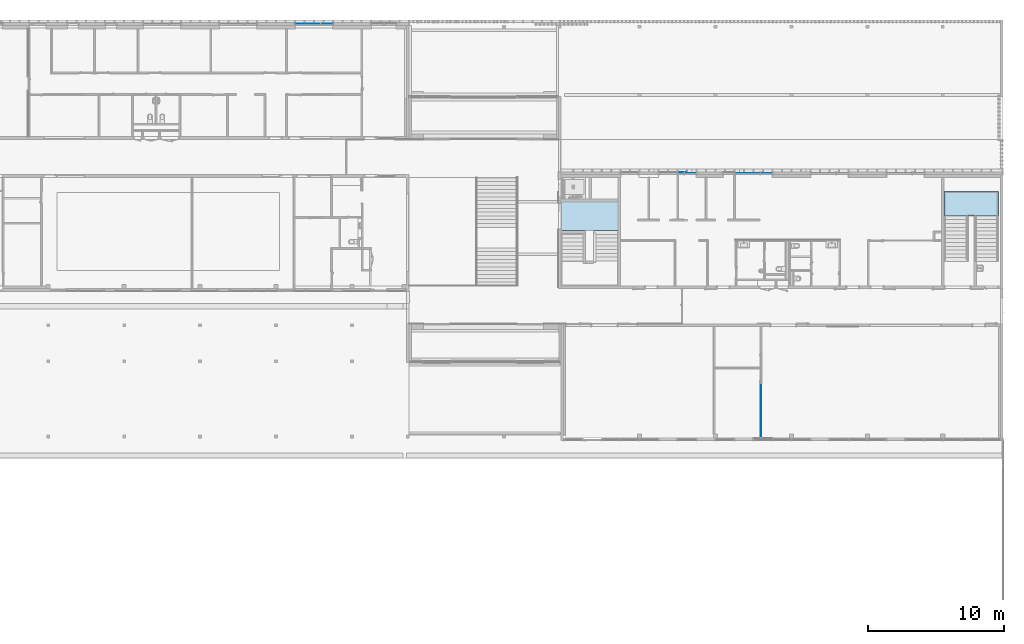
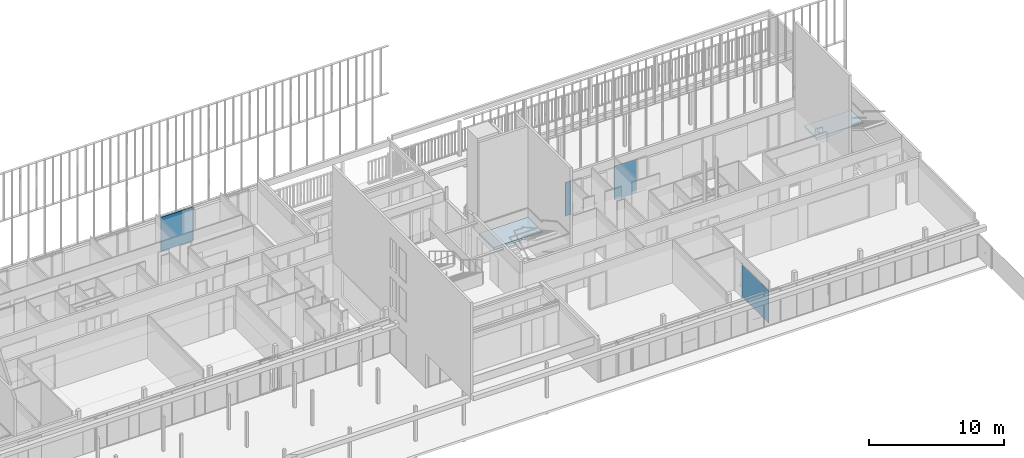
# One storey, part 182 of 240: 4 plates, 2 slabs, 6 elements without a shape of their own.
"""IFC2X3 building model written with IfcOpenShell, lengths in centimetres."""

from ifc_helpers import new_model, entity, si_unit, converted_unit, derived_unit, direction, frame, origin, place, context, subcontext, project, spatial, faceted_brep, source, transform, mapped, material, layer, layer_set, type_object, type_shapes, element, aggregate, save


model = new_model("IFC2X3")

# Units and contexts
model_context = context("Model", 3, precision=0.001, world=origin(), true_north=direction((6.12303176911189e-17, 1.0)))
body_context = subcontext(model_context, "Body", "Model", "MODEL_VIEW")
ifc_project = project(units=[si_unit("LENGTHUNIT", "METRE", prefix="CENTI"), si_unit("AREAUNIT", "SQUARE_METRE"), si_unit("VOLUMEUNIT", "CUBIC_METRE"), converted_unit("PLANEANGLEUNIT", "DEGREE", entity("IfcRatioMeasure", 0.0174532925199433), si_unit("PLANEANGLEUNIT", "RADIAN"), dimensions=[0, 0, 0, 0, 0, 0, 0]), si_unit("MASSUNIT", "GRAM", prefix="KILO"), derived_unit("MASSDENSITYUNIT", [(si_unit("MASSUNIT", "GRAM", prefix="KILO"), 1), (si_unit("LENGTHUNIT", "METRE"), -3)]), si_unit("TIMEUNIT", "SECOND"), si_unit("FREQUENCYUNIT", "HERTZ"), si_unit("THERMODYNAMICTEMPERATUREUNIT", "DEGREE_CELSIUS"), derived_unit("THERMALTRANSMITTANCEUNIT", [(si_unit("MASSUNIT", "GRAM", prefix="KILO"), 1), (si_unit("THERMODYNAMICTEMPERATUREUNIT", "KELVIN"), -1), (si_unit("TIMEUNIT", "SECOND"), -3)]), derived_unit("VOLUMETRICFLOWRATEUNIT", [(si_unit("LENGTHUNIT", "METRE"), 3), (si_unit("TIMEUNIT", "SECOND"), -1)]), si_unit("ELECTRICCURRENTUNIT", "AMPERE"), si_unit("ELECTRICVOLTAGEUNIT", "VOLT"), si_unit("POWERUNIT", "WATT"), si_unit("FORCEUNIT", "NEWTON", prefix="KILO"), si_unit("ILLUMINANCEUNIT", "LUX"), si_unit("LUMINOUSFLUXUNIT", "LUMEN"), si_unit("LUMINOUSINTENSITYUNIT", "CANDELA"), derived_unit("USERDEFINED", [(si_unit("MASSUNIT", "GRAM", prefix="KILO"), -1), (si_unit("LENGTHUNIT", "METRE"), -2), (si_unit("TIMEUNIT", "SECOND"), 3), (si_unit("LUMINOUSFLUXUNIT", "LUMEN"), 1)]), derived_unit("LINEARVELOCITYUNIT", [(si_unit("LENGTHUNIT", "METRE"), 1), (si_unit("TIMEUNIT", "SECOND"), -1)]), si_unit("PRESSUREUNIT", "PASCAL"), derived_unit("USERDEFINED", [(si_unit("LENGTHUNIT", "METRE"), -2), (si_unit("MASSUNIT", "GRAM", prefix="KILO"), 1), (si_unit("TIMEUNIT", "SECOND"), -2)])], contexts=[model_context])

# Site, building, storey
site_placement = place(None, frame((-2781.94577612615, 7442.24238424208, 0.0)))
site = spatial("IfcSite", under=ifc_project, at=site_placement, Name="Default", CompositionType="ELEMENT")
building_placement = place(site_placement, origin())
building = spatial("IfcBuilding", under=site, at=building_placement, CompositionType="ELEMENT")
storey_placement = place(building_placement, origin())
storey = spatial("IfcBuildingStorey", under=building, at=storey_placement, Name="N00 - COO", CompositionType="ELEMENT", Elevation=0.0)

# Curtain wall, plate
curtain_wall_type_1 = type_object("IfcCurtainWallType", Name="Mur-rideau:07 - mur rideau trame 280 cm", PredefinedType="NOTDEFINED")
curtain_wall_1_placement = place(building_placement, origin())
curtain_wall_1 = element("IfcCurtainWall", 1, at=curtain_wall_1_placement, inside=storey, type_object=curtain_wall_type_1, Name="Mur-rideau:07 - mur rideau trame 280 cm", ObjectType="Mur-rideau:07 - mur rideau trame 280 cm")
ifc_material_1 = material(Name="Verre")
ifc_layer = layer(ifc_material_1, 4.0)
ifc_layer_set = layer_set([ifc_layer], Name="Panneau système:Vitré")
plate_type_1 = type_object("IfcPlateType", Name="Vitré", PredefinedType="CURTAIN_PANEL", material=ifc_layer_set)
shared_shape_1 = source(origin(), body_context, "Body", "Brep", [
    faceted_brep([(67.4406265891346, -2.0, 0.0), (-20.1781234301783, -2.0, 0.0), (-20.1781234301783, -2.0, 307.7375), (67.4406265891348, -2.0, 307.7375), (67.4406265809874, -2.0, 306.0), (-67.4406265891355, -2.0, 306.0), (-67.4406265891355, -2.0, 1.73749999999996), (67.4406265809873, -2.0, 1.73749999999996), (67.4406265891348, 2.0, 0.0), (67.4406265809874, 2.0, 1.73749999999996), (-67.4406265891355, 2.0, 1.73749999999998), (-67.4406265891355, 2.0, 306.0), (67.4406265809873, 2.0, 306.0), (67.4406265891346, 2.0, 307.7375), (-20.1781234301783, 2.0, 307.7375), (-20.1781234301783, 2.0, 0.0)], [[[0, 1, 2, 3, 4, 5, 6, 7]], [[8, 9, 10, 11, 12, 13, 14, 15]], [[1, 0, 8, 15]], [[2, 1, 15, 14]], [[3, 2, 14, 13]], [[4, 3, 13, 12]], [[5, 4, 12, 11]], [[6, 5, 11, 10]], [[7, 6, 10, 9]], [[0, 7, 9, 8]]]),
])
type_shapes(plate_type_1, [shared_shape_1])
plate_1_placement = place(curtain_wall_1_placement, frame((-2719.99050940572, -1073.7999999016, 2.38125000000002)))
plate_1 = element("IfcPlate", 2, at=plate_1_placement, type_object=plate_type_1, material=ifc_material_1, Name="Panneau système:Vitré", ObjectType="Panneau système:Vitré", context=body_context, shape_type="MappedRepresentation", body=[
    mapped(shared_shape_1, transform((0.0, 0.0, 0.0), scale=1.0)),
])
aggregate(curtain_wall_1, [plate_1])

curtain_wall_2_placement = place(building_placement, origin())
curtain_wall_2 = element("IfcCurtainWall", 3, at=curtain_wall_2_placement, inside=storey, type_object=curtain_wall_type_1, Name="Mur-rideau:07 - mur rideau trame 280 cm", ObjectType="Mur-rideau:07 - mur rideau trame 280 cm")
plate_type_2 = type_object("IfcPlateType", Name="Vitré", PredefinedType="CURTAIN_PANEL", material=ifc_layer_set)
shared_shape_2 = source(origin(), body_context, "Body", "Brep", [
    faceted_brep([(137.940625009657, -2.0, 0.0), (50.3218749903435, -2.0, 0.0), (50.3218749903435, -2.0, 307.7375), (137.940625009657, -2.0, 307.7375), (137.94062500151, -2.0, 306.0), (-137.940625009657, -2.0, 306.0), (-137.940625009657, -2.0, 1.73749999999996), (137.940625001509, -2.0, 1.73749999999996), (137.940625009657, 2.0, 0.0), (137.940625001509, 2.0, 1.73749999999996), (-137.940625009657, 2.0, 1.73749999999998), (-137.940625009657, 2.0, 306.0), (137.940625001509, 2.0, 306.0), (137.940625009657, 2.0, 307.7375), (50.3218749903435, 2.0, 307.7375), (50.3218749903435, 2.0, 0.0)], [[[0, 1, 2, 3, 4, 5, 6, 7]], [[8, 9, 10, 11, 12, 13, 14, 15]], [[1, 0, 8, 15]], [[2, 1, 15, 14]], [[3, 2, 14, 13]], [[4, 3, 13, 12]], [[5, 4, 12, 11]], [[6, 5, 11, 10]], [[7, 6, 10, 9]], [[0, 7, 9, 8]]]),
])
type_shapes(plate_type_2, [shared_shape_2])
plate_2_placement = place(curtain_wall_2_placement, frame((-2230.49050783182, -1073.7999999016, 2.38125000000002)))
plate_2 = element("IfcPlate", 4, at=plate_2_placement, type_object=plate_type_2, material=ifc_material_1, Name="Panneau système:Vitré", ObjectType="Panneau système:Vitré", context=body_context, shape_type="MappedRepresentation", body=[
    mapped(shared_shape_2, transform((0.0, 0.0, 0.0), scale=1.0)),
])
aggregate(curtain_wall_2, [plate_2])

curtain_wall_3_placement = place(building_placement, origin())
curtain_wall_3 = element("IfcCurtainWall", 5, at=curtain_wall_3_placement, inside=storey, type_object=curtain_wall_type_1, Name="Mur-rideau:07 - mur rideau trame 280 cm", ObjectType="Mur-rideau:07 - mur rideau trame 280 cm")
plate_type_3 = type_object("IfcPlateType", Name="Vitré", PredefinedType="CURTAIN_PANEL", material=ifc_layer_set)
shared_shape_3 = source(origin(), body_context, "Body", "Brep", [
    faceted_brep([(-137.07187501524, -2.0, 1.73749999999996), (138.809375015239, -2.0, 1.73749999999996), (138.809375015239, -2.0, 310.61875), (-137.07187501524, -2.0, 310.61875), (-137.07187501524, 2.0, 1.73749999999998), (-137.07187501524, 2.0, 310.61875), (138.809375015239, 2.0, 310.61875), (138.809375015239, 2.0, 1.73749999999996), (-47.0718750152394, 2.0, 0.0), (-47.0718750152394, 2.0, 307.7375), (-138.80937501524, 2.0, 307.7375), (-138.80937501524, 2.0, 0.0), (-138.80937501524, -2.0, 0.0), (-47.0718750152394, -2.0, 0.0), (-138.80937501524, -2.0, 307.7375), (-47.0718750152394, -2.0, 307.7375)], [[[0, 1, 2, 3]], [[4, 5, 6, 7], [8, 9, 10, 11]], [[1, 0, 4, 7]], [[2, 1, 7, 6]], [[3, 2, 6, 5]], [[0, 3, 5, 4]], [[12, 13, 8, 11]], [[14, 12, 11, 10]], [[15, 14, 10, 9]], [[13, 15, 9, 8]], [[13, 12, 14, 15]]]),
])
type_shapes(plate_type_3, [shared_shape_3])
plate_3_placement = place(curtain_wall_3_placement, frame((-5467.44050261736, 26.2000000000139, 2.38125000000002), z_axis=(0.0, 0.0, 1.0), x_axis=(-1.0, 0.0, 0.0)))
plate_3 = element("IfcPlate", 6, at=plate_3_placement, type_object=plate_type_3, material=ifc_material_1, Name="Panneau système:Vitré", ObjectType="Panneau système:Vitré", context=body_context, shape_type="MappedRepresentation", body=[
    mapped(shared_shape_3, transform((0.0, 0.0, 0.0), scale=1.0)),
])
aggregate(curtain_wall_3, [plate_3])

curtain_wall_type_2 = type_object("IfcCurtainWallType", PredefinedType="NOTDEFINED")
curtain_wall_4_placement = place(building_placement, origin())
curtain_wall_4 = element("IfcCurtainWall", 7, at=curtain_wall_4_placement, inside=storey, type_object=curtain_wall_type_2)
plate_type_4 = type_object("IfcPlateType", Name="Vitré", PredefinedType="CURTAIN_PANEL", material=ifc_layer_set)
shared_shape_4 = source(origin(), body_context, "Body", "Brep", [
    faceted_brep([(-193.32846613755, -2.0, 0.0), (201.828466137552, -2.0, 0.0), (201.828466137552, -2.0, 296.0), (-201.828466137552, -2.0, 296.0), (-201.828466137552, -2.0, 304.500000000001), (-193.32846613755, -2.0, 304.500000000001), (-193.32846613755, 2.0, 0.0), (-193.32846613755, 2.0, 304.500000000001), (-201.828466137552, 2.0, 304.500000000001), (-201.828466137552, 2.0, 296.0), (201.828466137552, 2.0, 296.0), (201.828466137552, 2.0, 0.0)], [[[0, 1, 2, 3, 4, 5]], [[6, 7, 8, 9, 10, 11]], [[1, 0, 6, 11]], [[2, 1, 11, 10]], [[3, 2, 10, 9]], [[4, 3, 9, 8]], [[5, 4, 8, 7]], [[0, 5, 7, 6]]]),
])
type_shapes(plate_type_4, [shared_shape_4])
plate_4_placement = place(curtain_wall_4_placement, frame((-2174.19987968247, -2823.48503345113, 5.0), z_axis=(0.0, 0.0, 1.0), x_axis=(0.0, -1.0, 0.0)))
plate_4 = element("IfcPlate", 8, at=plate_4_placement, type_object=plate_type_4, material=ifc_material_1, Name="Panneau système:Vitré", ObjectType="Panneau système:Vitré", context=body_context, shape_type="MappedRepresentation", body=[
    mapped(shared_shape_4, transform((0.0, 0.0, 0.0), scale=1.0)),
])
aggregate(curtain_wall_4, [plate_4])

# Stair, slab
stair_1_placement = place(building_placement, origin())
stair_1 = element("IfcStair", 9, at=stair_1_placement, inside=storey, Name="Escalier coulé sur place:Escalier", ObjectType="Escalier coulé sur place:Monobloc", ShapeType="NOTDEFINED")
ifc_material_2 = material(Name="Maçonnerie - Béton")
slab_1_placement = place(stair_1_placement, frame((-825.299882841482, -1394.07903364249, 0.0)))
slab_1 = element("IfcSlab", 10, at=slab_1_placement, material=ifc_material_2, Name="Escalier coulé sur place:Escalier:542505 Landing 1", ObjectType="Palier monobloc:Epaisseur 150 mm", PredefinedType="LANDING", context=body_context, shape_type="Brep", body=[
    faceted_brep([(0.0, 0.0, 219.44), (180.0, 0.0, 219.44), (220.0, 0.0, 219.44), (400.0, 0.0, 219.44), (400.0, 17.6803022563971, 219.44), (400.0, 180.0, 219.44), (0.0, 180.0, 219.44), (0.0, 10.3196977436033, 219.44), (0.0, 0.0, 193.218696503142), (0.0, 0.0, 202.56), (0.0, 180.0, 199.44), (0.0, 10.3196977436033, 199.44), (180.0, 0.0, 199.44), (220.0, 0.0, 199.44), (220.0, 0.0, 210.098696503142), (400.0, 0.0, 210.098696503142), (400.0, 17.6803022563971, 199.44), (400.0, 180.0, 199.44), (220.0, 17.6803022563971, 199.44), (180.0, 10.3196977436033, 199.44), (180.0, 0.0, 193.218696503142)], [[[0, 1, 2, 3, 4, 5, 6, 7]], [[8, 9, 0, 7, 6, 10, 11]], [[2, 1, 12, 13, 14]], [[3, 2, 14, 15]], [[3, 15, 16, 17, 5, 4]], [[18, 13, 12, 19, 11, 10, 17, 16]], [[11, 19, 20, 8]], [[19, 12, 20]], [[18, 16, 15, 14]], [[1, 0, 9, 8, 20, 12]], [[6, 5, 17, 10]], [[13, 18, 14]]]),
])
aggregate(stair_1, [slab_1])

stair_2_placement = place(building_placement, origin())
stair_2 = element("IfcStair", 11, at=stair_2_placement, inside=storey, Name="Escalier coulé sur place:Escalier", ObjectType="Escalier coulé sur place:Monobloc", ShapeType="NOTDEFINED")
slab_2_placement = place(stair_2_placement, frame((-3647.99987968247, -1502.07903364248, 0.0)))
slab_2 = element("IfcSlab", 12, at=slab_2_placement, material=ifc_material_2, Name="Escalier coulé sur place:Escalier:1870163 Landing 2", ObjectType="Palier monobloc:Epaisseur 150 mm", PredefinedType="LANDING", context=body_context, shape_type="Brep", body=[
    faceted_brep([(0.0, 0.0, 281.333333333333), (180.0, 0.0, 281.333333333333), (238.699996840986, 0.0, 281.333333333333), (418.699996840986, 0.0, 281.333333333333), (418.699996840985, 19.4160003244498, 281.333333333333), (418.699996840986, 212.0, 281.333333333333), (0.0, 212.0, 281.333333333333), (0.0, 8.58399967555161, 281.333333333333), (0.0, 0.0, 265.703703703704), (0.0, 0.0, 256.541735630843), (180.0, 0.0, 256.541735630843), (180.0, 0.0, 261.333333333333), (238.699996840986, 0.0, 261.333333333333), (238.699996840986, 0.0, 272.171365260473), (418.699996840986, 0.0, 272.171365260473), (418.699996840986, 19.4160003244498, 261.333333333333), (418.699996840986, 212.0, 261.333333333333), (0.0, 212.0, 261.333333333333), (0.0, 8.58399967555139, 261.333333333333), (238.699996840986, 19.4160003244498, 261.333333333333), (180.0, 8.58399967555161, 261.333333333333)], [[[0, 1, 2, 3, 4, 5, 6, 7]], [[1, 0, 8, 9, 10, 11]], [[2, 1, 11, 12, 13]], [[3, 14, 15, 16, 5, 4]], [[6, 5, 16, 17]], [[9, 8, 0, 7, 6, 17, 18]], [[19, 12, 11, 20, 18, 17, 16, 15]], [[18, 20, 10, 9]], [[20, 11, 10]], [[19, 15, 14, 13]], [[3, 2, 13, 14]], [[12, 19, 13]]]),
])
aggregate(stair_2, [slab_2])

save(model, "model.ifc")
